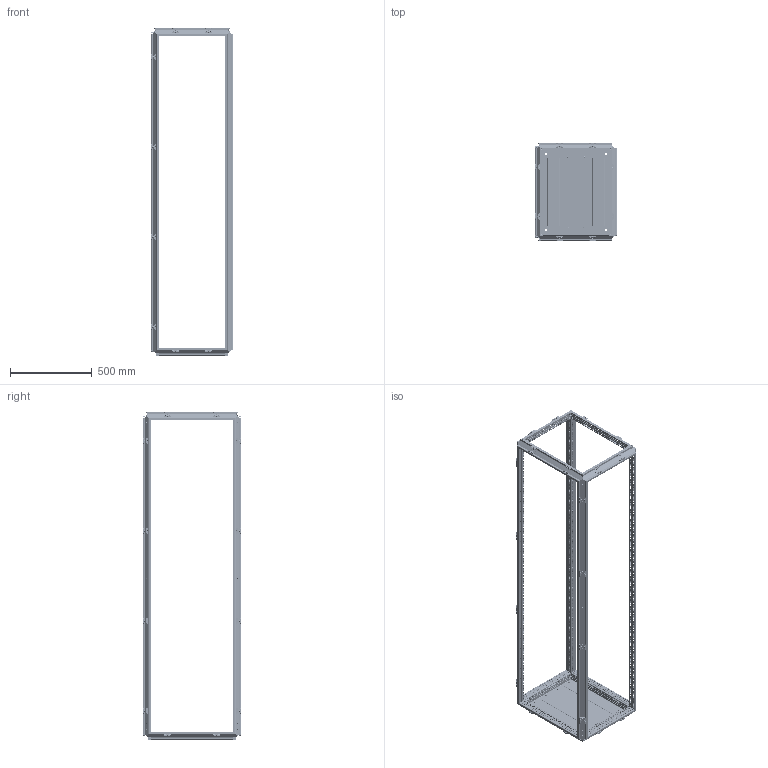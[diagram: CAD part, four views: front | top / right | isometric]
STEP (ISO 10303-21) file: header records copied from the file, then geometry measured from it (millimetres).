
FILE_DESCRIPTION(('STEP AP203'), '1');
FILE_NAME('3000 忺謤僔 捘', '', ('UNSPECIFIED'), ('UNSPECIFIED'), 'C3D Converter', 'C3D Toolkit', '');
FILE_SCHEMA(('CONFIG_CONTROL_DESIGN'));
Length unit declared in the file: millimetre
Products named in the file (12): 3000.200.60.50 СБ; 3000; 3007.75; 3007.200; 3009.04; 3009.04.01; 3009.04.2; 3009.04.01.2
Assembly tree (131 placements, depth 3):
  3000.200.60.50 СБ
    3000
    (unnamed)  x88
    3007.75  x2
    (unnamed)  x8
    3007.200
    3009.04  x8
      3009.04.01
      (unnamed)
      (unnamed)
    3009.04.2  x14
      3009.04.01.2
      (unnamed)
      (unnamed)
Bounding box: 497 x 597 x 1998.5 mm (x, y, z)
Volume: 3379534.2 mm3; surface area: 4505094.2 mm2
Topology: 218 solids, 218 shells, 16079 faces, 45041 edges, 29718 vertices
Faces by surface type: plane 11235, cylinder 3980, cone 584, torus 232, bspline 48
Full cylindrical faces by diameter (mm): 4.134 x124, 4.5 x1776, 4.8 x8, 5 x132, 5.8 x36, 6.8 x176, 7 x88, 7.5 x44, 8 x88, 9.2 x44, 10.106 x8, 14 x4
Entity records: 362769 total; most frequent: CARTESIAN_POINT 66506, ORIENTED_EDGE 58374, DIRECTION 55247, EDGE_CURVE 29187, LINE 23983, VECTOR 23983, VERTEX_POINT 20550, EDGE_LOOP 19833
